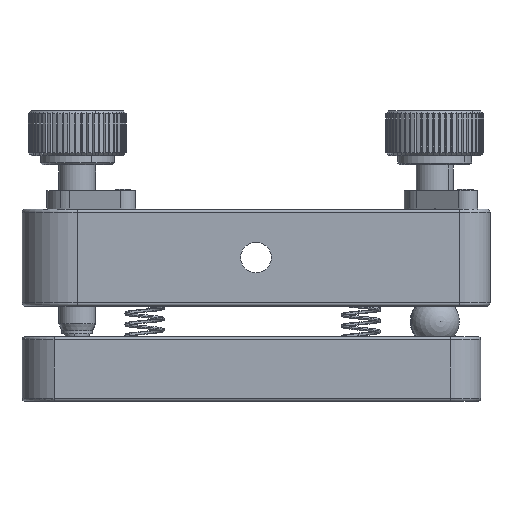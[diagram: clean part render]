
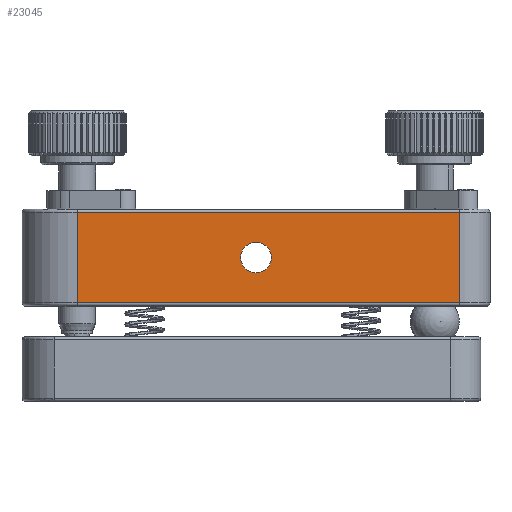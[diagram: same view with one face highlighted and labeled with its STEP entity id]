
A CAD part, left-side view. The second image highlights one B-rep face of the part: STEP entity #23045.
In plain terms, the highlighted planar face has unit normal (-1, 0, 0).
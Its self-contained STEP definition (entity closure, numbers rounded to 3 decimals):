
#1689 = CARTESIAN_POINT ( 'NONE',  ( -49.697, 30.918, 10.5 ) ) ;
#2876 = DIRECTION ( 'NONE',  ( 0., 1., 0. ) ) ;
#3128 = AXIS2_PLACEMENT_3D ( 'NONE', #24320, #36298, #9417 ) ;
#3701 = VERTEX_POINT ( 'NONE', #4141 ) ;
#4141 = CARTESIAN_POINT ( 'NONE',  ( -49.697, 30.918, 25.3 ) ) ;
#4172 = DIRECTION ( 'NONE',  ( 1., 0., 0. ) ) ;
#4488 = EDGE_CURVE ( 'NONE', #16474, #13276, #32344, .T. ) ;
#5069 = VECTOR ( 'NONE', #31782, 1000. ) ;
#5462 = CARTESIAN_POINT ( 'NONE',  ( -49.697, -31.282, 25.8 ) ) ;
#5973 = CARTESIAN_POINT ( 'NONE',  ( -49.697, -31.282, 10.5 ) ) ;
#6372 = ORIENTED_EDGE ( 'NONE', *, *, #9938, .T. ) ;
#7866 = LINE ( 'NONE', #19836, #5069 ) ;
#7962 = VERTEX_POINT ( 'NONE', #32780 ) ;
#8093 = CARTESIAN_POINT ( 'NONE',  ( -49.697, -31.282, 25.8 ) ) ;
#8436 = CARTESIAN_POINT ( 'NONE',  ( -49.697, -31.282, 25.3 ) ) ;
#8590 = ORIENTED_EDGE ( 'NONE', *, *, #4488, .F. ) ;
#8715 = CARTESIAN_POINT ( 'NONE',  ( -49.697, -31.282, 10.5 ) ) ;
#9417 = DIRECTION ( 'NONE',  ( 0., 1., 0. ) ) ;
#9938 = EDGE_CURVE ( 'NONE', #3701, #31389, #7866, .T. ) ;
#10546 = VECTOR ( 'NONE', #17442, 1000. ) ;
#10575 = VECTOR ( 'NONE', #2876, 1000. ) ;
#11038 = FACE_BOUND ( 'NONE', #14392, .T. ) ;
#11940 = VECTOR ( 'NONE', #20685, 1000. ) ;
#13276 = VERTEX_POINT ( 'NONE', #5973 ) ;
#14392 = EDGE_LOOP ( 'NONE', ( #15832, #20560 ) ) ;
#15832 = ORIENTED_EDGE ( 'NONE', *, *, #19249, .T. ) ;
#16156 = DIRECTION ( 'NONE',  ( 0., 1., 0. ) ) ;
#16474 = VERTEX_POINT ( 'NONE', #8436 ) ;
#17442 = DIRECTION ( 'NONE',  ( 0., 0., -1. ) ) ;
#17808 = LINE ( 'NONE', #29771, #10575 ) ;
#18873 = ORIENTED_EDGE ( 'NONE', *, *, #35206, .T. ) ;
#19249 = EDGE_CURVE ( 'NONE', #7962, #28834, #38798, .T. ) ;
#19836 = CARTESIAN_POINT ( 'NONE',  ( -49.697, 30.918, 25.8 ) ) ;
#19882 = EDGE_CURVE ( 'NONE', #28834, #7962, #20042, .T. ) ;
#20042 = CIRCLE ( 'NONE', #3128, 2.5 ) ;
#20075 = DIRECTION ( 'NONE',  ( 1., 0., 0. ) ) ;
#20408 = EDGE_CURVE ( 'NONE', #31389, #13276, #35587, .T. ) ;
#20560 = ORIENTED_EDGE ( 'NONE', *, *, #19882, .T. ) ;
#20685 = DIRECTION ( 'NONE',  ( 0., -1., 0. ) ) ;
#21868 = AXIS2_PLACEMENT_3D ( 'NONE', #31046, #4172, #16156 ) ;
#22778 = CARTESIAN_POINT ( 'NONE',  ( -49.697, 1.818, 20.4 ) ) ;
#22996 = FACE_OUTER_BOUND ( 'NONE', #23415, .T. ) ;
#23045 = ADVANCED_FACE ( 'NONE', ( #11038, #22996 ), #34966, .F. ) ;
#23415 = EDGE_LOOP ( 'NONE', ( #6372, #27970, #8590, #18873 ) ) ;
#24320 = CARTESIAN_POINT ( 'NONE',  ( -49.697, 1.818, 17.9 ) ) ;
#27970 = ORIENTED_EDGE ( 'NONE', *, *, #20408, .T. ) ;
#28834 = VERTEX_POINT ( 'NONE', #22778 ) ;
#29771 = CARTESIAN_POINT ( 'NONE',  ( -49.697, 30.918, 25.3 ) ) ;
#31046 = CARTESIAN_POINT ( 'NONE',  ( -49.697, 1.818, 17.9 ) ) ;
#31389 = VERTEX_POINT ( 'NONE', #1689 ) ;
#31782 = DIRECTION ( 'NONE',  ( 0., 0., -1. ) ) ;
#32031 = DIRECTION ( 'NONE',  ( 0., 1., 0. ) ) ;
#32344 = LINE ( 'NONE', #5462, #10546 ) ;
#32780 = CARTESIAN_POINT ( 'NONE',  ( -49.697, 1.818, 15.4 ) ) ;
#34966 = PLANE ( 'NONE',  #36223 ) ;
#35206 = EDGE_CURVE ( 'NONE', #16474, #3701, #17808, .T. ) ;
#35587 = LINE ( 'NONE', #8715, #11940 ) ;
#36223 = AXIS2_PLACEMENT_3D ( 'NONE', #8093, #20075, #32031 ) ;
#36298 = DIRECTION ( 'NONE',  ( 1., 0., 0. ) ) ;
#38798 = CIRCLE ( 'NONE', #21868, 2.5 ) ;
